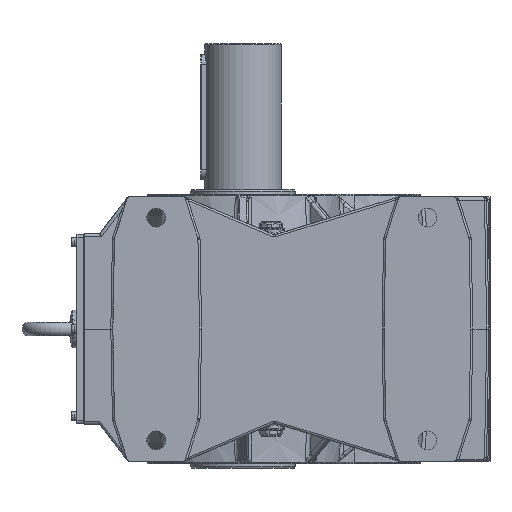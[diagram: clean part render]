
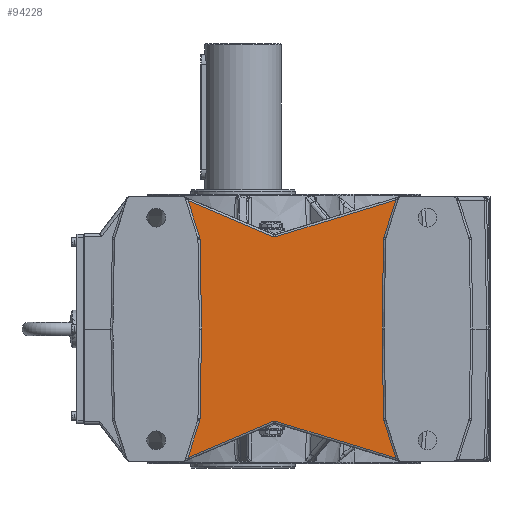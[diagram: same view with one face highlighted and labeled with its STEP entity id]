
A CAD part, left-side view. The second image highlights one B-rep face of the part: STEP entity #94228.
In plain terms, the highlighted planar face has unit normal (-1, 0, 0).
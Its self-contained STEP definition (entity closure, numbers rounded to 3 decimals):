
#93759=CARTESIAN_POINT('',(-225.0,62.36,-131.6));
#93760=VERTEX_POINT('',#93759);
#93768=CARTESIAN_POINT('',(-225.0,61.988,-129.324));
#93769=VERTEX_POINT('',#93768);
#93770=CARTESIAN_POINT('',(-225.0,69.987,-129.185));
#93771=DIRECTION('',(-1.0,0.,0.));
#93772=DIRECTION('',(0.,-0.987,-0.161));
#93773=AXIS2_PLACEMENT_3D('',#93770,#93771,#93772);
#93774=CIRCLE('',#93773,8.0);
#93775=EDGE_CURVE('',#93760,#93769,#93774,.T.);
#93801=CARTESIAN_POINT('',(-225.0,62.36,131.6));
#93802=VERTEX_POINT('',#93801);
#93811=CARTESIAN_POINT('',(-225.0,61.988,129.324));
#93812=VERTEX_POINT('',#93811);
#93820=CARTESIAN_POINT('',(-225.0,69.987,129.185));
#93821=DIRECTION('',(-1.0,0.,0.));
#93822=DIRECTION('',(0.,-0.987,0.161));
#93823=AXIS2_PLACEMENT_3D('',#93820,#93821,#93822);
#93824=CIRCLE('',#93823,8.0);
#93825=EDGE_CURVE('',#93812,#93802,#93824,.T.);
#93837=CARTESIAN_POINT('',(-225.0,59.73,0.));
#93838=VERTEX_POINT('',#93837);
#93846=CARTESIAN_POINT('',(-225.0,59.73,0.));
#93847=DIRECTION('',(0.0,0.017,1.));
#93848=VECTOR('',#93847,129.344);
#93849=LINE('',#93846,#93848);
#93850=EDGE_CURVE('',#93838,#93812,#93849,.T.);
#93861=CARTESIAN_POINT('',(-225.0,61.988,-129.324));
#93862=DIRECTION('',(0.0,-0.017,1.));
#93863=VECTOR('',#93862,129.344);
#93864=LINE('',#93861,#93863);
#93865=EDGE_CURVE('',#93769,#93838,#93864,.T.);
#93882=CARTESIAN_POINT('',(-225.,-219.416,185.461));
#93883=VERTEX_POINT('',#93882);
#93893=CARTESIAN_POINT('',(-225.,-202.36,131.6));
#93894=VERTEX_POINT('',#93893);
#93895=CARTESIAN_POINT('',(-225.,-219.416,185.461));
#93896=DIRECTION('',(0.0,0.302,-0.953));
#93897=VECTOR('',#93896,56.498);
#93898=LINE('',#93895,#93897);
#93899=EDGE_CURVE('',#93883,#93894,#93898,.T.);
#93934=CARTESIAN_POINT('',(-225.,-201.988,129.324));
#93935=VERTEX_POINT('',#93934);
#93936=CARTESIAN_POINT('',(-225.,-209.987,129.185));
#93937=DIRECTION('',(-1.0,0.,0.));
#93938=DIRECTION('',(0.,0.987,0.161));
#93939=AXIS2_PLACEMENT_3D('',#93936,#93937,#93938);
#93940=CIRCLE('',#93939,8.);
#93941=EDGE_CURVE('',#93894,#93935,#93940,.T.);
#93967=CARTESIAN_POINT('',(-225.,-202.36,-131.6));
#93968=VERTEX_POINT('',#93967);
#93987=CARTESIAN_POINT('',(-225.,-201.988,-129.324));
#93988=VERTEX_POINT('',#93987);
#93996=CARTESIAN_POINT('',(-225.,-209.987,-129.185));
#93997=DIRECTION('',(-1.0,0.,0.));
#93998=DIRECTION('',(0.,0.987,-0.161));
#93999=AXIS2_PLACEMENT_3D('',#93996,#93997,#93998);
#94000=CIRCLE('',#93999,8.);
#94001=EDGE_CURVE('',#93988,#93968,#94000,.T.);
#94020=CARTESIAN_POINT('',(-225.,-199.73,0.));
#94021=VERTEX_POINT('',#94020);
#94029=CARTESIAN_POINT('',(-225.,-199.73,0.));
#94030=DIRECTION('',(0.0,-0.017,-1.));
#94031=VECTOR('',#94030,129.344);
#94032=LINE('',#94029,#94031);
#94033=EDGE_CURVE('',#94021,#93988,#94032,.T.);
#94044=CARTESIAN_POINT('',(-225.,-201.988,129.324));
#94045=DIRECTION('',(0.0,0.017,-1.));
#94046=VECTOR('',#94045,129.344);
#94047=LINE('',#94044,#94046);
#94048=EDGE_CURVE('',#93935,#94021,#94047,.T.);
#94131=CARTESIAN_POINT('',(-225.0,79.172,184.692));
#94132=VERTEX_POINT('',#94131);
#94133=CARTESIAN_POINT('',(-225.0,62.36,131.6));
#94134=DIRECTION('',(0.0,0.302,0.953));
#94135=VECTOR('',#94134,55.69);
#94136=LINE('',#94133,#94135);
#94137=EDGE_CURVE('',#93802,#94132,#94136,.T.);
#94149=CARTESIAN_POINT('',(-225.,-350.0,0.0));
#94150=DIRECTION('',(-1.0,0.0,0.0));
#94151=DIRECTION('',(0.0,0.0,1.0));
#94152=AXIS2_PLACEMENT_3D('',#94149,#94150,#94151);
#94153=PLANE('',#94152);
#94154=CARTESIAN_POINT('',(-225.,-219.416,-185.461));
#94155=VERTEX_POINT('',#94154);
#94156=CARTESIAN_POINT('',(-225.,-46.878,-132.711));
#94157=VERTEX_POINT('',#94156);
#94158=CARTESIAN_POINT('',(-225.,-219.416,-185.461));
#94159=DIRECTION('',(0.,0.956,0.292));
#94160=VECTOR('',#94159,180.421);
#94161=LINE('',#94158,#94160);
#94162=EDGE_CURVE('',#94155,#94157,#94161,.T.);
#94163=ORIENTED_EDGE('',*,*,#94162,.F.);
#94164=CARTESIAN_POINT('',(-225.,-202.36,-131.6));
#94165=DIRECTION('',(0.0,-0.302,-0.953));
#94166=VECTOR('',#94165,56.498);
#94167=LINE('',#94164,#94166);
#94168=EDGE_CURVE('',#93968,#94155,#94167,.T.);
#94169=ORIENTED_EDGE('',*,*,#94168,.F.);
#94170=ORIENTED_EDGE('',*,*,#94001,.F.);
#94171=ORIENTED_EDGE('',*,*,#94033,.F.);
#94172=ORIENTED_EDGE('',*,*,#94048,.F.);
#94173=ORIENTED_EDGE('',*,*,#93941,.F.);
#94174=ORIENTED_EDGE('',*,*,#93899,.F.);
#94175=CARTESIAN_POINT('',(-225.,-46.878,132.711));
#94176=VERTEX_POINT('',#94175);
#94177=CARTESIAN_POINT('',(-225.,-46.878,132.711));
#94178=DIRECTION('',(0.,-0.956,0.292));
#94179=VECTOR('',#94178,180.421);
#94180=LINE('',#94177,#94179);
#94181=EDGE_CURVE('',#94176,#93883,#94180,.T.);
#94182=ORIENTED_EDGE('',*,*,#94181,.F.);
#94183=CARTESIAN_POINT('',(-225.,-42.78,132.926));
#94184=VERTEX_POINT('',#94183);
#94185=CARTESIAN_POINT('',(-225.,-45.124,138.449));
#94186=DIRECTION('',(-1.0,0.,0.));
#94187=DIRECTION('',(0.,0.052,-0.999));
#94188=AXIS2_PLACEMENT_3D('',#94185,#94186,#94187);
#94189=CIRCLE('',#94188,6.);
#94190=EDGE_CURVE('',#94184,#94176,#94189,.T.);
#94191=ORIENTED_EDGE('',*,*,#94190,.F.);
#94192=CARTESIAN_POINT('',(-225.0,79.172,184.692));
#94193=DIRECTION('',(0.,-0.921,-0.391));
#94194=VECTOR('',#94193,132.484);
#94195=LINE('',#94192,#94194);
#94196=EDGE_CURVE('',#94132,#94184,#94195,.T.);
#94197=ORIENTED_EDGE('',*,*,#94196,.F.);
#94198=ORIENTED_EDGE('',*,*,#94137,.F.);
#94199=ORIENTED_EDGE('',*,*,#93825,.F.);
#94200=ORIENTED_EDGE('',*,*,#93850,.F.);
#94201=ORIENTED_EDGE('',*,*,#93865,.F.);
#94202=ORIENTED_EDGE('',*,*,#93775,.F.);
#94203=CARTESIAN_POINT('',(-225.0,79.172,-184.692));
#94204=VERTEX_POINT('',#94203);
#94205=CARTESIAN_POINT('',(-225.0,79.172,-184.692));
#94206=DIRECTION('',(0.0,-0.302,0.953));
#94207=VECTOR('',#94206,55.69);
#94208=LINE('',#94205,#94207);
#94209=EDGE_CURVE('',#94204,#93760,#94208,.T.);
#94210=ORIENTED_EDGE('',*,*,#94209,.F.);
#94211=CARTESIAN_POINT('',(-225.,-42.78,-132.926));
#94212=VERTEX_POINT('',#94211);
#94213=CARTESIAN_POINT('',(-225.,-42.78,-132.926));
#94214=DIRECTION('',(0.,0.921,-0.391));
#94215=VECTOR('',#94214,132.484);
#94216=LINE('',#94213,#94215);
#94217=EDGE_CURVE('',#94212,#94204,#94216,.T.);
#94218=ORIENTED_EDGE('',*,*,#94217,.F.);
#94219=CARTESIAN_POINT('',(-225.,-45.124,-138.449));
#94220=DIRECTION('',(-1.0,0.,0.));
#94221=DIRECTION('',(0.,0.052,0.999));
#94222=AXIS2_PLACEMENT_3D('',#94219,#94220,#94221);
#94223=CIRCLE('',#94222,6.);
#94224=EDGE_CURVE('',#94157,#94212,#94223,.T.);
#94225=ORIENTED_EDGE('',*,*,#94224,.F.);
#94226=EDGE_LOOP('',(#94163,#94169,#94170,#94171,#94172,#94173,#94174,#94182,#94191,#94197,#94198,#94199,#94200,#94201,#94202,#94210,#94218,#94225));
#94227=FACE_OUTER_BOUND('',#94226,.T.);
#94228=ADVANCED_FACE('',(#94227),#94153,.T.);
